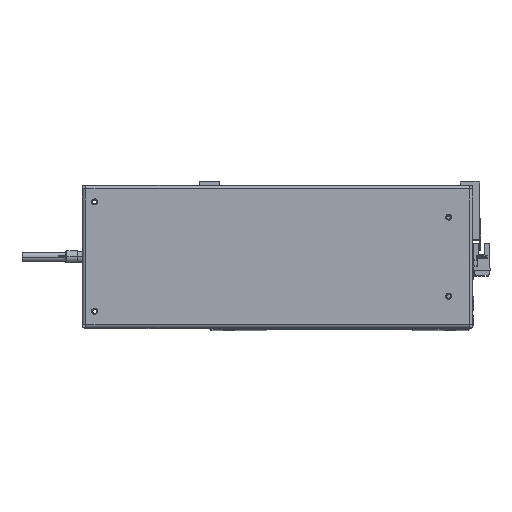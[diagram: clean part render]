
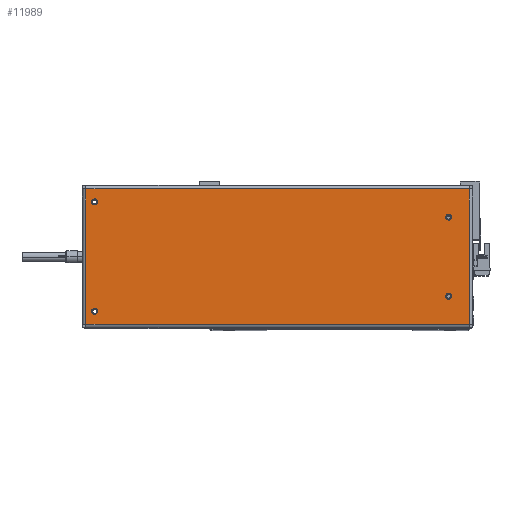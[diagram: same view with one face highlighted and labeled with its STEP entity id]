
A CAD part, top view. The second image highlights one B-rep face of the part: STEP entity #11989.
In plain terms, the highlighted planar face has unit normal (0, 0, 1).
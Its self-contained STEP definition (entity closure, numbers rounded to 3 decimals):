
#730 = CARTESIAN_POINT ( 'NONE',  ( -157.7, -55.6, 0. ) ) ;
#797 = VERTEX_POINT ( 'NONE', #22725 ) ;
#884 = CARTESIAN_POINT ( 'NONE',  ( -140.5, 32.5, 0. ) ) ;
#1006 = CARTESIAN_POINT ( 'NONE',  ( 157.7, 55.6, 0. ) ) ;
#1374 = DIRECTION ( 'NONE',  ( -1., 0., 0. ) ) ;
#1576 = CARTESIAN_POINT ( 'NONE',  ( 148., 45., 0. ) ) ;
#2386 = CARTESIAN_POINT ( 'NONE',  ( 157.7, 58.5, 0. ) ) ;
#2953 = VERTEX_POINT ( 'NONE', #24727 ) ;
#3207 = EDGE_CURVE ( 'NONE', #797, #32863, #35981, .T. ) ;
#3495 = CIRCLE ( 'NONE', #12819, 2.5 ) ;
#3514 = DIRECTION ( 'NONE',  ( 1., 0., 0. ) ) ;
#3618 = EDGE_CURVE ( 'NONE', #27506, #27703, #6417, .T. ) ;
#4362 = ORIENTED_EDGE ( 'NONE', *, *, #3207, .F. ) ;
#4933 = FACE_BOUND ( 'NONE', #24177, .T. ) ;
#5234 = CARTESIAN_POINT ( 'NONE',  ( 157.6, 55.6, 0. ) ) ;
#5354 = DIRECTION ( 'NONE',  ( 0., 0., -1. ) ) ;
#5438 = DIRECTION ( 'NONE',  ( 1., 0., 0. ) ) ;
#6350 = CARTESIAN_POINT ( 'NONE',  ( -157.6, 55.6, 0. ) ) ;
#6417 = CIRCLE ( 'NONE', #27374, 2.5 ) ;
#6811 = CARTESIAN_POINT ( 'NONE',  ( -138., -32.5, 0. ) ) ;
#7758 = CARTESIAN_POINT ( 'NONE',  ( -157.6, -55.6, 0. ) ) ;
#8190 = AXIS2_PLACEMENT_3D ( 'NONE', #23638, #26409, #5438 ) ;
#8760 = VECTOR ( 'NONE', #1374, 1000. ) ;
#9219 = CIRCLE ( 'NONE', #32626, 2.5 ) ;
#9966 = CARTESIAN_POINT ( 'NONE',  ( 148., -45., 0. ) ) ;
#10217 = DIRECTION ( 'NONE',  ( 0., 0., 1. ) ) ;
#10245 = VECTOR ( 'NONE', #32647, 1000. ) ;
#10384 = AXIS2_PLACEMENT_3D ( 'NONE', #13928, #31215, #19617 ) ;
#11336 = DIRECTION ( 'NONE',  ( 0., 1., 0. ) ) ;
#11989 = ADVANCED_FACE ( 'NONE', ( #29540, #4933, #30891, #16366, #13611 ), #34167, .F. ) ;
#12136 = ORIENTED_EDGE ( 'NONE', *, *, #3618, .F. ) ;
#12738 = EDGE_LOOP ( 'NONE', ( #4362, #24910 ) ) ;
#12819 = AXIS2_PLACEMENT_3D ( 'NONE', #26337, #32432, #23438 ) ;
#13112 = ORIENTED_EDGE ( 'NONE', *, *, #26752, .F. ) ;
#13235 = CIRCLE ( 'NONE', #8190, 2.5 ) ;
#13549 = LINE ( 'NONE', #730, #14460 ) ;
#13575 = VERTEX_POINT ( 'NONE', #21583 ) ;
#13581 = CARTESIAN_POINT ( 'NONE',  ( 157.6, -55.6, 0. ) ) ;
#13611 = FACE_OUTER_BOUND ( 'NONE', #13812, .T. ) ;
#13715 = CARTESIAN_POINT ( 'NONE',  ( -140.5, -32.5, 0. ) ) ;
#13812 = EDGE_LOOP ( 'NONE', ( #24993, #24115, #23493, #17406 ) ) ;
#13852 = VECTOR ( 'NONE', #11336, 1000. ) ;
#13872 = CARTESIAN_POINT ( 'NONE',  ( -143., 32.5, 0. ) ) ;
#13878 = EDGE_LOOP ( 'NONE', ( #13112, #16580 ) ) ;
#13928 = CARTESIAN_POINT ( 'NONE',  ( 150.5, 45., 0. ) ) ;
#14029 = VERTEX_POINT ( 'NONE', #7758 ) ;
#14460 = VECTOR ( 'NONE', #3514, 1000. ) ;
#14620 = DIRECTION ( 'NONE',  ( 0., 0., 1. ) ) ;
#15683 = CIRCLE ( 'NONE', #34764, 2.5 ) ;
#15878 = EDGE_CURVE ( 'NONE', #23629, #18813, #31139, .T. ) ;
#16275 = EDGE_CURVE ( 'NONE', #2953, #27269, #15683, .T. ) ;
#16366 = FACE_BOUND ( 'NONE', #12738, .T. ) ;
#16580 = ORIENTED_EDGE ( 'NONE', *, *, #16275, .F. ) ;
#17205 = CARTESIAN_POINT ( 'NONE',  ( 153., -45., 0. ) ) ;
#17406 = ORIENTED_EDGE ( 'NONE', *, *, #26122, .T. ) ;
#17968 = DIRECTION ( 'NONE',  ( 1., 0., 0. ) ) ;
#18213 = DIRECTION ( 'NONE',  ( 0., 0., 1. ) ) ;
#18357 = CARTESIAN_POINT ( 'NONE',  ( -157.6, 55.6, 0. ) ) ;
#18813 = VERTEX_POINT ( 'NONE', #5234 ) ;
#19536 = DIRECTION ( 'NONE',  ( 1., 0., 0. ) ) ;
#19617 = DIRECTION ( 'NONE',  ( 1., 0., 0. ) ) ;
#20240 = EDGE_CURVE ( 'NONE', #13575, #27663, #23255, .T. ) ;
#21583 = CARTESIAN_POINT ( 'NONE',  ( -138., 32.5, 0. ) ) ;
#21855 = AXIS2_PLACEMENT_3D ( 'NONE', #37448, #14620, #26026 ) ;
#22226 = DIRECTION ( 'NONE',  ( 0., 0., 1. ) ) ;
#22522 = CARTESIAN_POINT ( 'NONE',  ( 157.6, -55.6, 0. ) ) ;
#22546 = EDGE_CURVE ( 'NONE', #27663, #13575, #34508, .T. ) ;
#22564 = CARTESIAN_POINT ( 'NONE',  ( -140.5, -32.5, 0. ) ) ;
#22725 = CARTESIAN_POINT ( 'NONE',  ( 153., 45., 0. ) ) ;
#23255 = CIRCLE ( 'NONE', #33672, 2.5 ) ;
#23343 = LINE ( 'NONE', #1006, #8760 ) ;
#23438 = DIRECTION ( 'NONE',  ( 1., 0., 0. ) ) ;
#23493 = ORIENTED_EDGE ( 'NONE', *, *, #15878, .T. ) ;
#23629 = VERTEX_POINT ( 'NONE', #13581 ) ;
#23638 = CARTESIAN_POINT ( 'NONE',  ( 150.5, 45., 0. ) ) ;
#24115 = ORIENTED_EDGE ( 'NONE', *, *, #36303, .T. ) ;
#24177 = EDGE_LOOP ( 'NONE', ( #35162, #26385 ) ) ;
#24727 = CARTESIAN_POINT ( 'NONE',  ( -143., -32.5, 0. ) ) ;
#24815 = DIRECTION ( 'NONE',  ( 1., 0., 0. ) ) ;
#24910 = ORIENTED_EDGE ( 'NONE', *, *, #31984, .F. ) ;
#24993 = ORIENTED_EDGE ( 'NONE', *, *, #25075, .T. ) ;
#25075 = EDGE_CURVE ( 'NONE', #34317, #14029, #35666, .T. ) ;
#26026 = DIRECTION ( 'NONE',  ( 1., 0., 0. ) ) ;
#26122 = EDGE_CURVE ( 'NONE', #18813, #34317, #23343, .T. ) ;
#26337 = CARTESIAN_POINT ( 'NONE',  ( 150.5, -45., 0. ) ) ;
#26385 = ORIENTED_EDGE ( 'NONE', *, *, #22546, .F. ) ;
#26409 = DIRECTION ( 'NONE',  ( 0., 0., 1. ) ) ;
#26752 = EDGE_CURVE ( 'NONE', #27269, #2953, #9219, .T. ) ;
#26899 = AXIS2_PLACEMENT_3D ( 'NONE', #2386, #5354, #28625 ) ;
#27269 = VERTEX_POINT ( 'NONE', #6811 ) ;
#27374 = AXIS2_PLACEMENT_3D ( 'NONE', #33293, #10217, #24815 ) ;
#27506 = VERTEX_POINT ( 'NONE', #9966 ) ;
#27663 = VERTEX_POINT ( 'NONE', #13872 ) ;
#27703 = VERTEX_POINT ( 'NONE', #17205 ) ;
#28625 = DIRECTION ( 'NONE',  ( -1., 0., 0. ) ) ;
#29271 = EDGE_LOOP ( 'NONE', ( #30185, #12136 ) ) ;
#29540 = FACE_BOUND ( 'NONE', #13878, .T. ) ;
#30185 = ORIENTED_EDGE ( 'NONE', *, *, #35772, .F. ) ;
#30891 = FACE_BOUND ( 'NONE', #29271, .T. ) ;
#31139 = LINE ( 'NONE', #22522, #13852 ) ;
#31215 = DIRECTION ( 'NONE',  ( 0., 0., 1. ) ) ;
#31984 = EDGE_CURVE ( 'NONE', #32863, #797, #13235, .T. ) ;
#32432 = DIRECTION ( 'NONE',  ( 0., 0., 1. ) ) ;
#32626 = AXIS2_PLACEMENT_3D ( 'NONE', #22564, #36655, #36783 ) ;
#32647 = DIRECTION ( 'NONE',  ( 0., -1., 0. ) ) ;
#32863 = VERTEX_POINT ( 'NONE', #1576 ) ;
#33293 = CARTESIAN_POINT ( 'NONE',  ( 150.5, -45., 0. ) ) ;
#33672 = AXIS2_PLACEMENT_3D ( 'NONE', #884, #18213, #17968 ) ;
#34167 = PLANE ( 'NONE',  #26899 ) ;
#34317 = VERTEX_POINT ( 'NONE', #18357 ) ;
#34508 = CIRCLE ( 'NONE', #21855, 2.5 ) ;
#34764 = AXIS2_PLACEMENT_3D ( 'NONE', #13715, #22226, #19536 ) ;
#35162 = ORIENTED_EDGE ( 'NONE', *, *, #20240, .F. ) ;
#35666 = LINE ( 'NONE', #6350, #10245 ) ;
#35772 = EDGE_CURVE ( 'NONE', #27703, #27506, #3495, .T. ) ;
#35981 = CIRCLE ( 'NONE', #10384, 2.5 ) ;
#36303 = EDGE_CURVE ( 'NONE', #14029, #23629, #13549, .T. ) ;
#36655 = DIRECTION ( 'NONE',  ( 0., 0., 1. ) ) ;
#36783 = DIRECTION ( 'NONE',  ( 1., 0., 0. ) ) ;
#37448 = CARTESIAN_POINT ( 'NONE',  ( -140.5, 32.5, 0. ) ) ;
